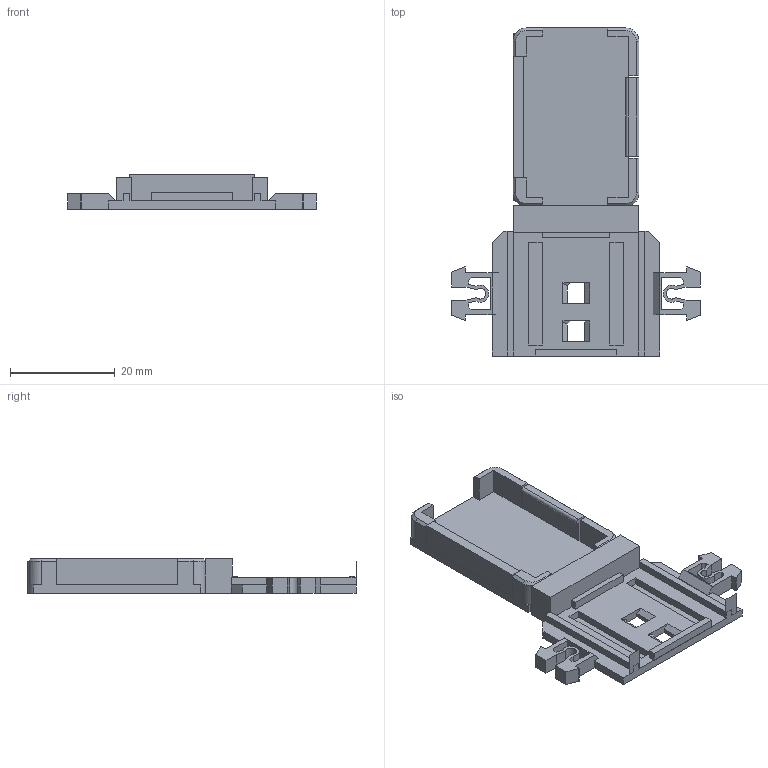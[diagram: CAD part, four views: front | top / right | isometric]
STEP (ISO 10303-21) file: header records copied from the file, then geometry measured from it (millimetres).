
FILE_DESCRIPTION(('Open CASCADE Model'),'2;1');
FILE_NAME('Open CASCADE Shape Model','2026-08-15T16:20:52',('Author'),( 'Open CASCADE'),'Open CASCADE STEP processor 7.9','Open CASCADE 7.9' ,'Unknown');
FILE_SCHEMA(('AUTOMOTIVE_DESIGN { 1 0 10303 214 1 1 1 1 }'));
Length unit declared in the file: millimetre
Products named in the file (1): Open CASCADE STEP translator 7.9 11
Bounding box: 47.5 x 62.62 x 6.6 mm (x, y, z)
Volume: 4267.6 mm3; surface area: 5683.3 mm2
Topology: 1 solids, 1 shells, 188 faces, 537 edges, 354 vertices
Faces by surface type: plane 171, cylinder 13, cone 4
Entity records: 13064 total; most frequent: CARTESIAN_POINT 2378, DIRECTION 1943, LINE 1479, VECTOR 1479, ORIENTED_EDGE 1074, PCURVE 1074, DEFINITIONAL_REPRESENTATION 1074, EDGE_CURVE 537
